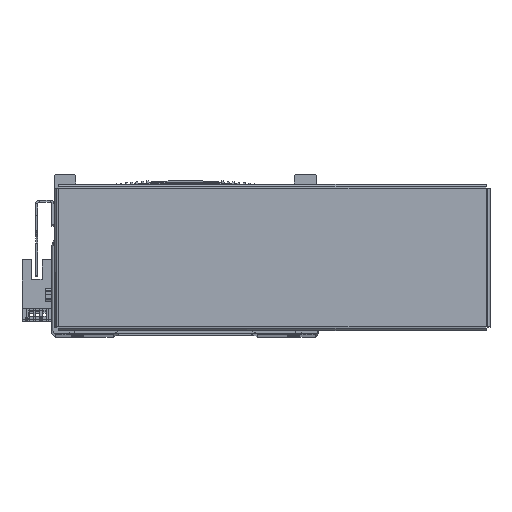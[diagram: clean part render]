
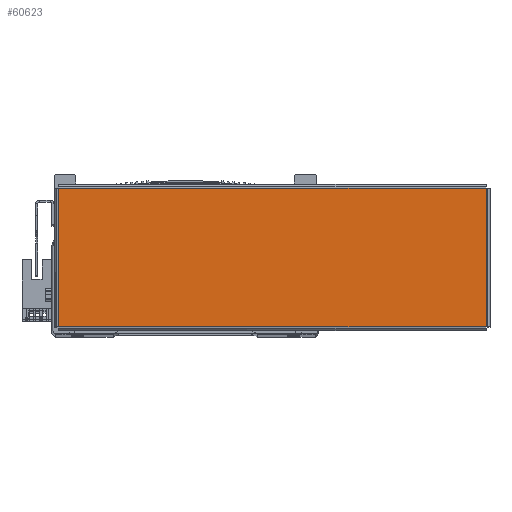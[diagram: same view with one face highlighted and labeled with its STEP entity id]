
A CAD part, top view. The second image highlights one B-rep face of the part: STEP entity #60623.
In plain terms, the highlighted planar face has unit normal (0, 0, 1) as drawn and (0, 0, -1) by its records, which use the part's own axes.
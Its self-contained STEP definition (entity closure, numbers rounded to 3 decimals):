
#17180 = AXIS2_PLACEMENT_3D ( 'NONE', #65134, #65159, #65243 ) ;
#30174 = CARTESIAN_POINT ( 'NONE',  ( 97.863, 31.793, -1. ) ) ;
#30202 = DIRECTION ( 'NONE',  ( 0., -1., 0. ) ) ;
#30260 = CARTESIAN_POINT ( 'NONE',  ( -97.863, -31.793, -1. ) ) ;
#30276 = DIRECTION ( 'NONE',  ( 0., 1., 0. ) ) ;
#30419 = CARTESIAN_POINT ( 'NONE',  ( 97.893, -31.763, -1. ) ) ;
#30428 = DIRECTION ( 'NONE',  ( -1., 0., 0. ) ) ;
#36887 = VERTEX_POINT ( 'NONE', #67479 ) ;
#36918 = VERTEX_POINT ( 'NONE', #67477 ) ;
#36936 = VERTEX_POINT ( 'NONE', #78246 ) ;
#36970 = VERTEX_POINT ( 'NONE', #78213 ) ;
#40411 = LINE ( 'NONE', #30260, #40425 ) ;
#40425 = VECTOR ( 'NONE', #30276, 1000. ) ;
#40441 = LINE ( 'NONE', #30174, #40467 ) ;
#40467 = VECTOR ( 'NONE', #30202, 1000. ) ;
#40518 = VECTOR ( 'NONE', #30428, 1000. ) ;
#40524 = LINE ( 'NONE', #30419, #40518 ) ;
#40567 = LINE ( 'NONE', #42335, #40600 ) ;
#40600 = VECTOR ( 'NONE', #42350, 1000. ) ;
#42335 = CARTESIAN_POINT ( 'NONE',  ( -97.893, 31.763, -1. ) ) ;
#42350 = DIRECTION ( 'NONE',  ( 1., 0., 0. ) ) ;
#49039 = ORIENTED_EDGE ( 'NONE', *, *, #62957, .T. ) ;
#49073 = ORIENTED_EDGE ( 'NONE', *, *, #62971, .T. ) ;
#49108 = ORIENTED_EDGE ( 'NONE', *, *, #63007, .T. ) ;
#49145 = ORIENTED_EDGE ( 'NONE', *, *, #63045, .T. ) ;
#54040 = EDGE_LOOP ( 'NONE', ( #49039, #49108, #49073, #49145 ) ) ;
#59040 = FACE_OUTER_BOUND ( 'NONE', #54040, .T. ) ;
#60623 = ADVANCED_FACE ( 'NONE', ( #59040 ), #65185, .F. ) ;
#62957 = EDGE_CURVE ( 'NONE', #36970, #36887, #40441, .T. ) ;
#62971 = EDGE_CURVE ( 'NONE', #36918, #36936, #40411, .T. ) ;
#63007 = EDGE_CURVE ( 'NONE', #36887, #36918, #40524, .T. ) ;
#63045 = EDGE_CURVE ( 'NONE', #36936, #36970, #40567, .T. ) ;
#65134 = CARTESIAN_POINT ( 'NONE',  ( 0., 0., -1. ) ) ;
#65159 = DIRECTION ( 'NONE',  ( 0., 0., 1. ) ) ;
#65185 = PLANE ( 'NONE',  #17180 ) ;
#65243 = DIRECTION ( 'NONE',  ( 1., 0., 0. ) ) ;
#67477 = CARTESIAN_POINT ( 'NONE',  ( -97.863, -31.763, -1. ) ) ;
#67479 = CARTESIAN_POINT ( 'NONE',  ( 97.863, -31.763, -1. ) ) ;
#78213 = CARTESIAN_POINT ( 'NONE',  ( 97.863, 31.763, -1. ) ) ;
#78246 = CARTESIAN_POINT ( 'NONE',  ( -97.863, 31.763, -1. ) ) ;
